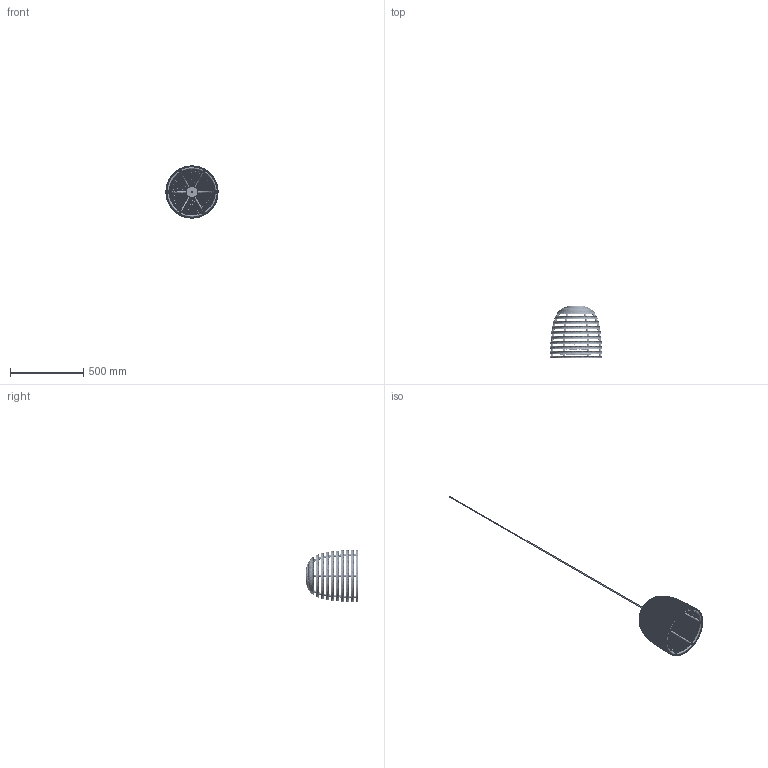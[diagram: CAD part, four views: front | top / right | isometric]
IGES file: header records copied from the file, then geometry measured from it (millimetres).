
Global section: file name: VincentSheppard_ViviLampSmall; native system: unknown; preprocessor: unknown; author: ict@vincentsheppard.com; organization: unknown; date: 20180518.145832; units: millimetre
Bounding box: 355.12 x 2264.5 x 355.12 mm (x, y, z)
Volume: 1986952.3 mm3; surface area: 1029953.6 mm2
Topology: 56 solids, 56 shells, 72 faces, 120 edges, 64 vertices
Faces by surface type: bspline 72
